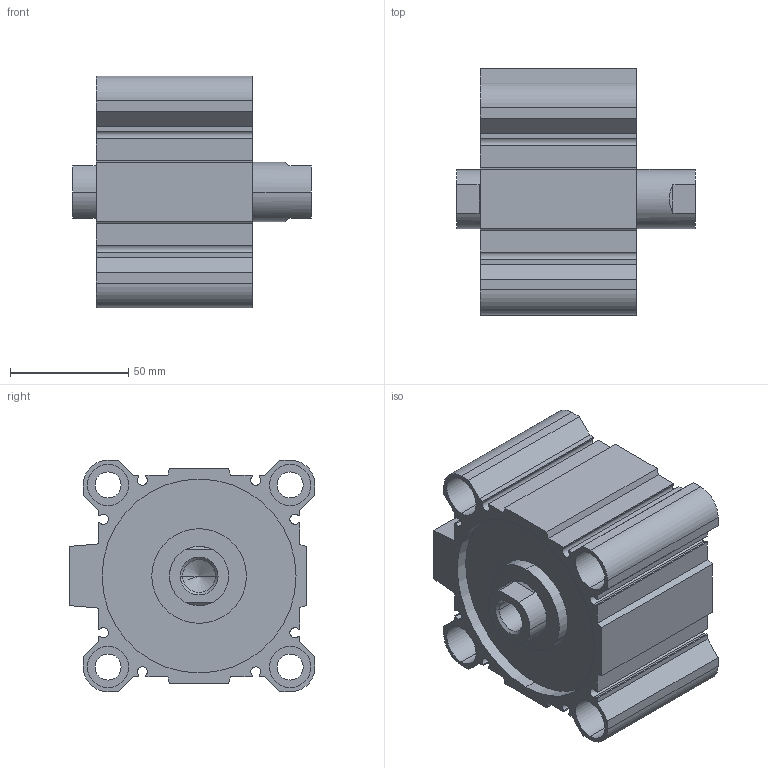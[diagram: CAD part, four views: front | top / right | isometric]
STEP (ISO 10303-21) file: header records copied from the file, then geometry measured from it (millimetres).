
FILE_DESCRIPTION (( 'STEP AP203' ), '1' );
FILE_NAME ('CCMB80-15F-P.STEP', '2020-08-05T11:49:01', ( '' ), ( '' ), 'SwSTEP 2.0', 'SolidWorks 2019', '' );
FILE_SCHEMA (( 'CONFIG_CONTROL_DESIGN' ));
Length unit declared in the file: millimetre
Products named in the file (1): CCMB80-15F-P
Bounding box: 101 x 104 x 98 mm (x, y, z)
Volume: 408677.1 mm3; surface area: 111152.5 mm2
Topology: 2 solids, 2 shells, 176 faces, 450 edges, 294 vertices
Faces by surface type: plane 90, cylinder 74, cone 12
Entity records: 5425 total; most frequent: DIRECTION 956, CARTESIAN_POINT 929, ORIENTED_EDGE 892, EDGE_CURVE 446, AXIS2_PLACEMENT_3D 337, VERTEX_POINT 294, LINE 282, VECTOR 282
